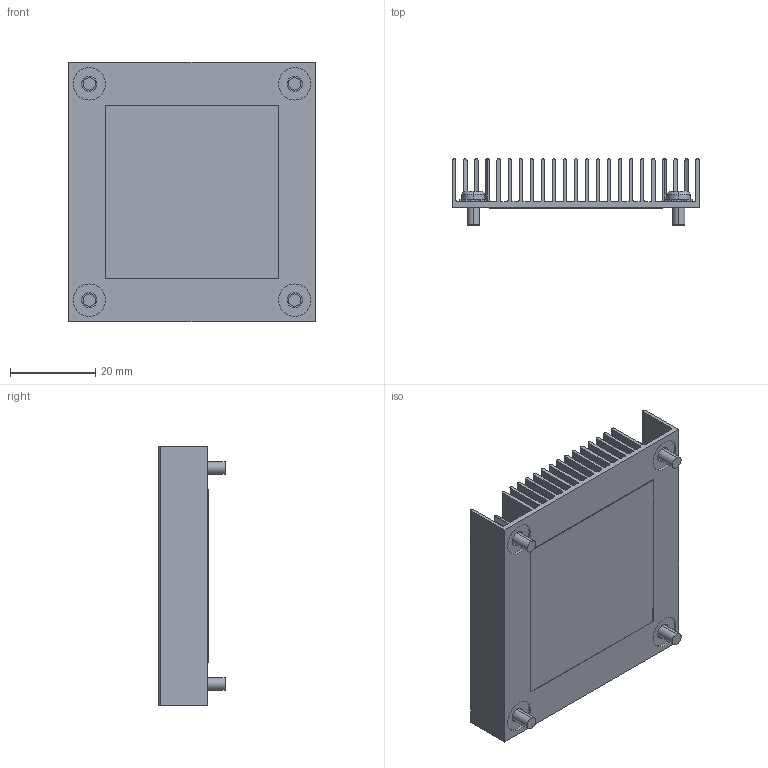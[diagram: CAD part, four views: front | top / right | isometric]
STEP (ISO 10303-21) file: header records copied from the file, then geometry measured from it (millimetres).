
FILE_DESCRIPTION (( 'STEP AP214' ), '1' );
FILE_NAME ('HS1576EBK06.STEP', '2023-03-03T18:37:16', ( '' ), ( '' ), 'SwSTEP 2.0', 'SolidWorks 2020', '' );
FILE_SCHEMA (( 'AUTOMOTIVE_DESIGN' ));
Length unit declared in the file: millimetre
Products named in the file (1): HS1576EBK06
Bounding box: 57.91 x 15.53 x 60.96 mm (x, y, z)
Volume: 15159.5 mm3; surface area: 37558.4 mm2
Topology: 6 solids, 6 shells, 536 faces, 1380 edges, 874 vertices
Faces by surface type: plane 383, cylinder 145, torus 8
Entity records: 22662 total; most frequent: CARTESIAN_POINT 3442, ORIENTED_EDGE 2760, DIRECTION 2748, EDGE_CURVE 1380, LINE 1018, VECTOR 1018, VERTEX_POINT 874, AXIS2_PLACEMENT_3D 865
